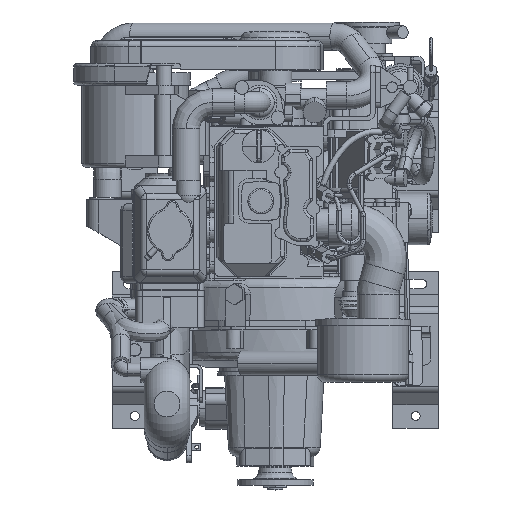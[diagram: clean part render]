
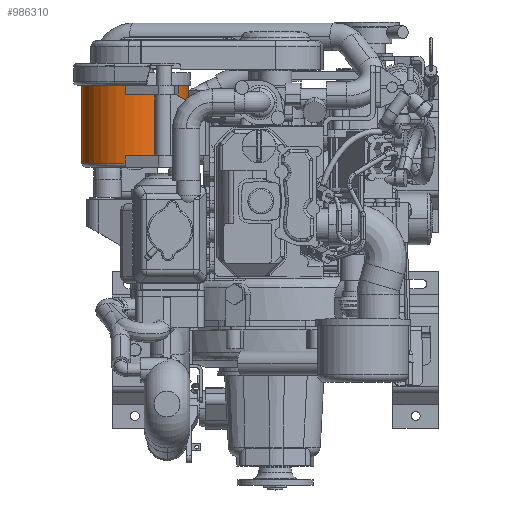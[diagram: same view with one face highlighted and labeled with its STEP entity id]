
A CAD part, top view. The second image highlights one B-rep face of the part: STEP entity #986310.
In plain terms, the highlighted cylindrical face has radius 70 mm (diameter 140 mm), a partial arc.
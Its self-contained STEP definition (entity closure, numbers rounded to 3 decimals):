
#984990=CARTESIAN_POINT('',(-127.962,271.4,604.819));
#985000=VERTEX_POINT('',#984990);
#985030=CARTESIAN_POINT('',(-127.962,258.9,604.819));
#985040=DIRECTION('',(0.,-1.,0.));
#985050=VECTOR('',#985040,1.);
#985060=LINE('',#985030,#985050);
#985070=CARTESIAN_POINT('',(-127.962,261.4,604.819));
#985080=VERTEX_POINT('',#985070);
#985090=EDGE_CURVE('',#985000,#985080,#985060,.T.);
#985410=CARTESIAN_POINT('',(-184.636,258.9,563.732));
#985420=DIRECTION('',(0.,-1.,0.));
#985430=DIRECTION('',(1.,0.,0.));
#985440=AXIS2_PLACEMENT_3D('',#985410,#985420,#985430);
#985450=CYLINDRICAL_SURFACE('',#985440,70.);
#985460=CARTESIAN_POINT('',(-114.636,258.9,563.732));
#985470=DIRECTION('',(0.,-1.,0.));
#985480=VECTOR('',#985470,1.);
#985490=LINE('',#985460,#985480);
#985500=CARTESIAN_POINT('',(-114.636,364.4,563.732));
#985510=VERTEX_POINT('',#985500);
#985520=CARTESIAN_POINT('',(-114.636,261.4,563.732));
#985530=VERTEX_POINT('',#985520);
#985540=EDGE_CURVE('',#985510,#985530,#985490,.T.);
#985550=ORIENTED_EDGE('',*,*,#985540,.F.);
#985560=CARTESIAN_POINT('',(-184.636,261.4,563.732));
#985570=DIRECTION('',(0.,-1.,0.));
#985580=DIRECTION('',(-1.,0.,0.));
#985590=AXIS2_PLACEMENT_3D('',#985560,#985570,#985580);
#985600=CIRCLE('',#985590,70.);
#985610=EDGE_CURVE('',#985530,#985080,#985600,.T.);
#985620=ORIENTED_EDGE('',*,*,#985610,.F.);
#985630=ORIENTED_EDGE('',*,*,#985090,.T.);
#985640=CARTESIAN_POINT('',(-184.636,271.4,563.732));
#985650=DIRECTION('',(0.,-1.,0.));
#985660=DIRECTION('',(1.,0.,0.));
#985670=AXIS2_PLACEMENT_3D('',#985640,#985650,#985660);
#985680=CIRCLE('',#985670,70.);
#985690=CARTESIAN_POINT('',(-197.816,271.4,632.48));
#985700=VERTEX_POINT('',#985690);
#985710=EDGE_CURVE('',#985000,#985700,#985680,.T.);
#985720=ORIENTED_EDGE('',*,*,#985710,.F.);
#985730=CARTESIAN_POINT('',(-197.816,258.9,632.48));
#985740=DIRECTION('',(0.,-1.,0.));
#985750=VECTOR('',#985740,1.);
#985760=LINE('',#985730,#985750);
#985770=CARTESIAN_POINT('',(-197.816,261.4,632.48));
#985780=VERTEX_POINT('',#985770);
#985790=EDGE_CURVE('',#985700,#985780,#985760,.T.);
#985800=ORIENTED_EDGE('',*,*,#985790,.F.);
#985810=CARTESIAN_POINT('',(-254.636,261.4,563.732));
#985820=VERTEX_POINT('',#985810);
#985830=EDGE_CURVE('',#985780,#985820,#985600,.T.);
#985840=ORIENTED_EDGE('',*,*,#985830,.F.);
#985850=CARTESIAN_POINT('',(-254.636,258.9,563.732));
#985860=DIRECTION('',(0.,-1.,0.));
#985870=VECTOR('',#985860,1.);
#985880=LINE('',#985850,#985870);
#985890=CARTESIAN_POINT('',(-254.636,364.4,563.732));
#985900=VERTEX_POINT('',#985890);
#985910=EDGE_CURVE('',#985900,#985820,#985880,.T.);
#985920=ORIENTED_EDGE('',*,*,#985910,.T.);
#985930=CARTESIAN_POINT('',(-184.636,364.4,563.732));
#985940=DIRECTION('',(0.,-1.,0.));
#985950=DIRECTION('',(1.,0.,0.));
#985960=AXIS2_PLACEMENT_3D('',#985930,#985940,#985950);
#985970=CIRCLE('',#985960,70.);
#985980=CARTESIAN_POINT('',(-197.816,364.4,632.48));
#985990=VERTEX_POINT('',#985980);
#986000=EDGE_CURVE('',#985990,#985900,#985970,.T.);
#986010=ORIENTED_EDGE('',*,*,#986000,.T.);
#986020=CARTESIAN_POINT('',(-197.816,258.9,632.48));
#986030=DIRECTION('',(0.,-1.,0.));
#986040=VECTOR('',#986030,1.);
#986050=LINE('',#986020,#986040);
#986060=CARTESIAN_POINT('',(-197.816,351.4,632.48));
#986070=VERTEX_POINT('',#986060);
#986080=EDGE_CURVE('',#985990,#986070,#986050,.T.);
#986090=ORIENTED_EDGE('',*,*,#986080,.F.);
#986100=CARTESIAN_POINT('',(-184.636,351.4,563.732));
#986110=DIRECTION('',(0.,-1.,0.));
#986120=DIRECTION('',(1.,0.,0.));
#986130=AXIS2_PLACEMENT_3D('',#986100,#986110,#986120);
#986140=CIRCLE('',#986130,70.);
#986150=CARTESIAN_POINT('',(-127.962,351.4,604.819));
#986160=VERTEX_POINT('',#986150);
#986170=EDGE_CURVE('',#986160,#986070,#986140,.T.);
#986180=ORIENTED_EDGE('',*,*,#986170,.T.);
#986190=CARTESIAN_POINT('',(-127.962,258.9,604.819));
#986200=DIRECTION('',(0.,-1.,0.));
#986210=VECTOR('',#986200,1.);
#986220=LINE('',#986190,#986210);
#986230=CARTESIAN_POINT('',(-127.962,364.4,604.819));
#986240=VERTEX_POINT('',#986230);
#986250=EDGE_CURVE('',#986240,#986160,#986220,.T.);
#986260=ORIENTED_EDGE('',*,*,#986250,.T.);
#986270=EDGE_CURVE('',#985510,#986240,#985970,.T.);
#986280=ORIENTED_EDGE('',*,*,#986270,.T.);
#986290=EDGE_LOOP('',(#986280,#986260,#986180,#986090,#986010,#985920,
#985840,#985800,#985720,#985630,#985620,#985550));
#986300=FACE_OUTER_BOUND('',#986290,.T.);
#986310=ADVANCED_FACE('',(#986300),#985450,.T.);
